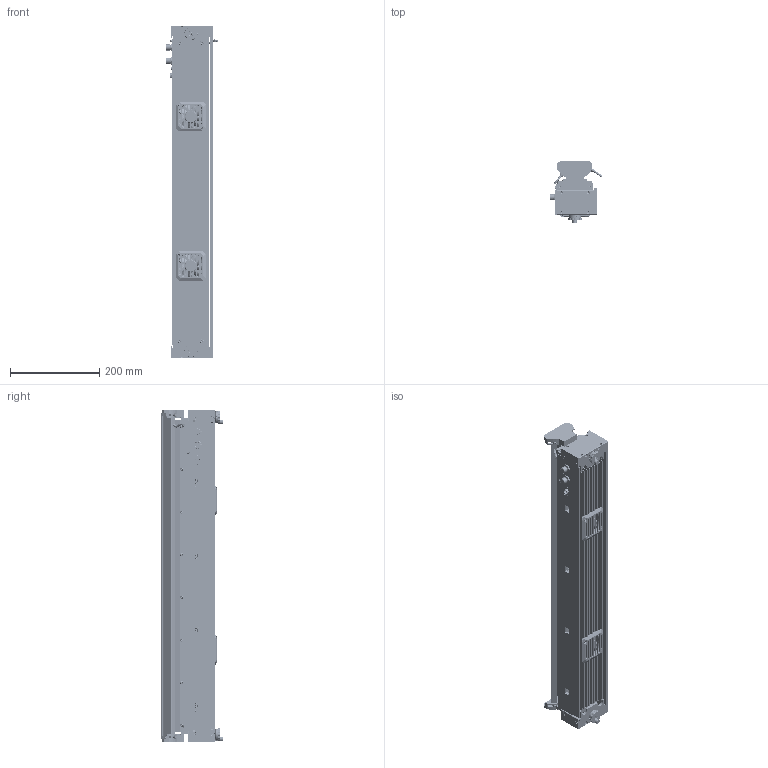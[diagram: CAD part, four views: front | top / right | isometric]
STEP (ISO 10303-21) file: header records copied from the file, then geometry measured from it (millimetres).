
FILE_DESCRIPTION((''),'2;1');
FILE_NAME('ASM0002_ASM','2026-05-11T09:19:03',('gengdawei'),(''),'CREO PARAMETRIC BY PTC INC, 2020044','CREO PARAMETRIC BY PTC INC, 2020044','');
FILE_SCHEMA(('CONFIG_CONTROL_DESIGN'));
Products named in the file (87): DE-15-007658_33_1_1; SC-K1M3X7-BNI_6_1_1; ST-S5_5X7-M3X5-F3X5-CU_6_1_1; DE-17-001989_6_1_1; 6015C-B3D_1000_ASM_7_1_1_1; 6015C-B3D_1000_ASM_7_2_1_1; 6015C-B3D_1000_ASM_7_ASM_1_1_ASM; DE-14-037205_6_1_1; SC-PM3X20-GB823-SUS304-BZN_6__1; 00-660-0001_ASM_27_ASM_1_1_ASM; DE-15-007659_44_1_1; ST1213_6_1_1_2; DE-11-003273_6_1_1; 101300190_6_1_1; MV-24335_ASM_6_ASM_1_1_ASM; D-01-35-26-0837_6_1_1_2; SC-KM2X4B_6_1_1; PW-4-B-GB97_1_6_1_1; SC-P0M4X6-SUS-GB818_6_1_1; SC-PM4X8B-JMP_6_1_1; 00-660-0002_ASM_24_ASM_1_1_ASM; DE-15-007660_29_1_1; 101300353_3_1_1; MV-26047_ASM_3_ASM_1_1_ASM; SC-T1M2X4B_6_1_1; SC-PM4X8B-JMP_6_1; 00-660-0003_ASM_26_ASM_1_1_ASM; DE-14-083781_11_1_1; 00-CIS660-0001_ASM_19_ASM_1_1_ASM; DE-14-095612_16_1_1; SC-HSCFM5X18B-SCM435_3_1_1; 00-6600001_ASM_13_ASM_1_1_ASM; DE-14-088344_14_1_1; DE-14-096288_23_1_1; MV_25016_REV10_ASM_12_1_1; MV_25017_REV10_ASM_9_1_1; DE-30-003424_ASM_11_ASM_1_1_ASM; DE-14-096286_21_2_1; DE-14-096287_26_1_1; DE-30-003431_8_2_1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
Assembly tree (187 placements, depth 7):
  ASM0002_ASM
    00-0-CIS660-ALL_ASM_ASM_2_1_ASM
      00-0-CIS660-ALL_ASM_73_ASM_1_1_ASM
        00-CIS660-0001_ASM_19_ASM_1_1_ASM
          00-660-0001_ASM_27_ASM_1_1_ASM
            DE-15-007658_33_1_1
            SC-K1M3X7-BNI_6_1_1  x8
            ST-S5_5X7-M3X5-F3X5-CU_6_1_1  x8
            DE-17-001989_6_1_1  x8
            6015C-B3D_1000_ASM_7_ASM_1_1_ASM  x2
              6015C-B3D_1000_ASM_7_1_1_1
              6015C-B3D_1000_ASM_7_2_1_1
            DE-14-037205_6_1_1  x2
            SC-PM3X20-GB823-SUS304-BZN_6__1  x4
          00-660-0002_ASM_24_ASM_1_1_ASM
            DE-15-007659_44_1_1
            ST1213_6_1_1_2  x2
            MV-24335_ASM_6_ASM_1_1_ASM
              DE-11-003273_6_1_1
              101300190_6_1_1
            D-01-35-26-0837_6_1_1_2  x6
            SC-KM2X4B_6_1_1  x2
            PW-4-B-GB97_1_6_1_1
            SC-P0M4X6-SUS-GB818_6_1_1
            SC-PM4X8B-JMP_6_1_1  x10
          00-660-0003_ASM_26_ASM_1_1_ASM
            DE-15-007660_29_1_1
            MV-26047_ASM_3_ASM_1_1_ASM
              101300353_3_1_1  x2
            SC-T1M2X4B_6_1_1  x4
            SC-PM4X8B-JMP_6_1  x2
          DE-14-083781_11_1_1  x2
        00-6600001_ASM_13_ASM_1_1_ASM
          DE-14-095612_16_1_1
          SC-HSCFM5X18B-SCM435_3_1_1  x4
        DE-14-088344_14_1_1  x2
        DE-30-003422_ASM_37_ASM_2_1_ASM  x2
          DE-14-096288_23_1_1
          DE-30-003424_ASM_11_ASM_1_1_ASM
            MV_25016_REV10_ASM_12_1_1
            MV_25017_REV10_ASM_9_1_1  x3
          DE-14-096286_21_2_1
          DE-14-096287_26_1_1
          DE-30-003431_8_2_1
          SC-KM2_5X5B-NL-JMF_4_2_1
          DE-11-141830_5_1_1
          DA-17-009120_4_2_1
        SC-HSCM4X8-GB70_1_2_1_1  x2
        SC-KM5X10-SUS_4_1_1  x4
        P-EPE-002821_ASM_5_1_1
      YOU_ASM_1_1_ASM
        0002_ASM_444_ASM_1_ASM_1_ASM__1_ASM
          DE-14-074232_102_1_1_1_1
          DE-14-074162BJINGXIANG_18_1_1_2
          BBS3800-DANLIE_3_1_1_1_1
          DE-14-074244_30_1_1_1_1_2
          DE-14-074230_116_1_1_1_1
          SC-KM5X10-SUS_5_1_1_1_1_2  x10
          DE-11-124058_21_1_1_1_1
          SC-HSCM5X50-SCM435-DAC-GB70_1_5
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Bounding box: 117.48 x 137.79 x 743.11 mm (x, y, z)
Volume: 4071593.7 mm3; surface area: 1352640 mm2
Topology: 179 solids, 543 shells, 19197 faces, 54265 edges, 35382 vertices
Faces by surface type: plane 10914, cylinder 6114, cone 1309, bspline 470, torus 342, extrusion 30, sphere 18
Entity records: 293252 total; most frequent: CARTESIAN_POINT 99944, DIRECTION 40698, ORIENTED_EDGE 39637, EDGE_CURVE 20268, AXIS2_PLACEMENT_3D 14440, VERTEX_POINT 13385, VECTOR 11818, LINE 11806
